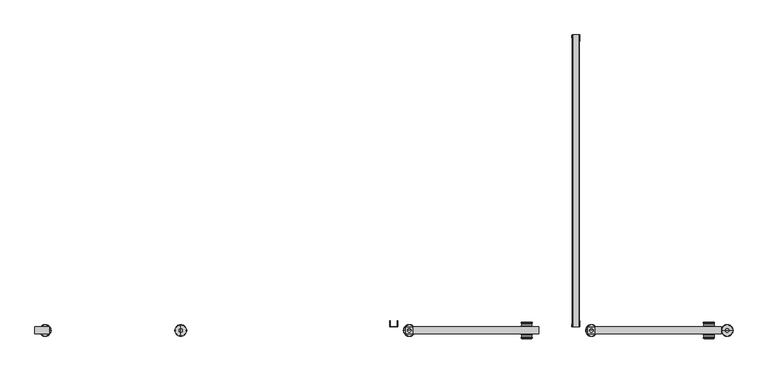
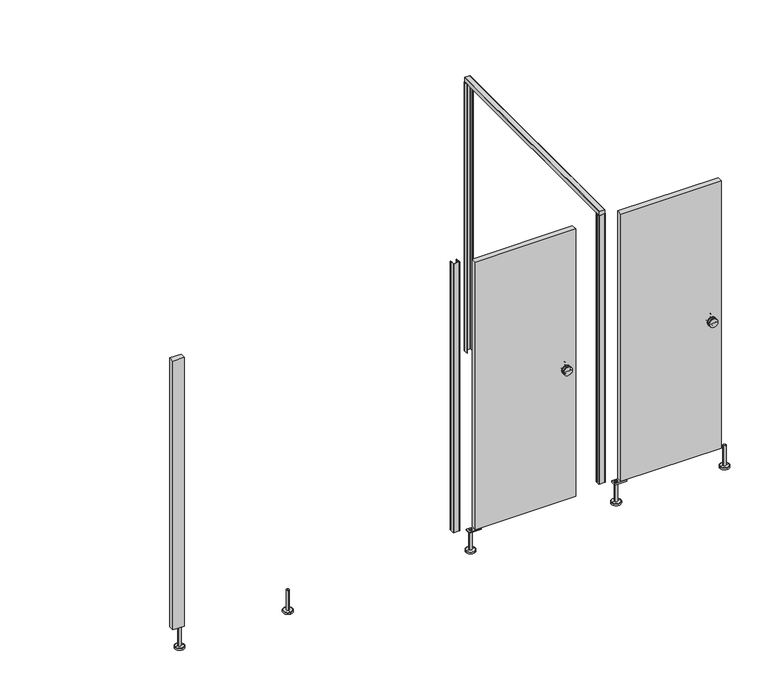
"""IFC4 building model written with IfcOpenShell, lengths in millimetres: proxy geometry, Partition_EuroStyle-Bradley_Corp-5StandardStall-NEP-LOFT : Partition_EuroStyle-Bradley_Corp-5StandardStall-NEP-LOFT."""

from ifc_helpers import new_model, si_unit, point, frame, frame_2d, origin, place, context, project, spatial, polyline, circle_curve, ellipse_curve, trimmed, segment, composite_curve, outline, extrude, source, transform, mapped, element, save
from ifc_brep_helpers import plane_surface, cylinder_surface, revolved_surface, advanced_brep


def specialty_equipment_0bc7b9af(model_context):
    return source(origin(), model_context, "Body", "SolidModel", [
        advanced_brep(
        [(-54.5018316, -1542.0101626, 150.0000008), (-72.501831, -1542.0101626, 150.0000008), (-72.501831, -1542.0101626, 12.0000001), (-54.5018316, -1542.0101626, 12.0000001), (-63.5018313, -1542.0101626, 150.0000008), (-32.5018323, -1542.0101626, 0.0), (-94.5018302, -1542.0101626, 0.0), (-63.5018313, -1542.0101626, 0.0), (-32.5018323, -1542.0101626, 10.0000001), (-94.5018302, -1542.0101626, 10.0000001), (-34.5042443, -1542.0101626, 12.0000001), (-92.4994183, -1542.0101626, 12.0000001)],
        [
            (0, 1, circle_curve(frame((-63.5018313, -1542.0101626, 150.0000008), z_axis=(0.0, 0.0, -1.0), x_axis=(-1.0, 0.0, 0.0)), 8.9999997)),
            (1, 2),
            (2, 3, circle_curve(frame((-63.5018313, -1542.0101626, 12.0000001), z_axis=(0.0, 0.0, 1.0), x_axis=(-1.0, 0.0, 0.0)), 8.9999997)),
            (3, 0),
            (1, 0, circle_curve(frame((-63.5018313, -1542.0101626, 150.0000008), z_axis=(0.0, 0.0, -1.0), x_axis=(-1.0, 0.0, 0.0)), 8.9999997)),
            (3, 2, circle_curve(frame((-63.5018313, -1542.0101626, 12.0000001), z_axis=(0.0, 0.0, 1.0), x_axis=(-1.0, 0.0, 0.0)), 8.9999997)),
            (4, 1),
            (0, 4),
            (5, 6, circle_curve(frame((-63.5018313, -1542.0101626, 0.0), z_axis=(0.0, 0.0, -1.0), x_axis=(-1.0, 0.0, 0.0)), 30.9999989)),
            (6, 7),
            (7, 5),
            (6, 5, circle_curve(frame((-63.5018313, -1542.0101626, 0.0), z_axis=(0.0, 0.0, -1.0), x_axis=(-1.0, 0.0, 0.0)), 30.9999989)),
            (8, 9, circle_curve(frame((-63.5018313, -1542.0101626, 10.0000001), z_axis=(0.0, 0.0, -1.0), x_axis=(-1.0, 0.0, 0.0)), 30.9999989)),
            (9, 6),
            (5, 8),
            (9, 8, circle_curve(frame((-63.5018313, -1542.0101626, 10.0000001), z_axis=(0.0, 0.0, -1.0), x_axis=(-1.0, 0.0, 0.0)), 30.9999989)),
            (10, 11, circle_curve(frame((-63.5018313, -1542.0101626, 12.0000001), z_axis=(0.0, 0.0, -1.0), x_axis=(-1.0, 0.0, 0.0)), 28.997587)),
            (11, 9),
            (8, 10),
            (11, 10, circle_curve(frame((-63.5018313, -1542.0101626, 12.0000001), z_axis=(0.0, 0.0, -1.0), x_axis=(-1.0, 0.0, 0.0)), 28.997587)),
            (2, 11),
            (10, 3),
        ],
        [
            cylinder_surface(frame((-63.5018313, -1542.0101626, 0.0), z_axis=(0.0, 0.0, 1.0), x_axis=(-1.0, 0.0, 0.0)), 8.9999997),
            plane_surface(frame((-63.5018313, -1542.0101626, 150.0000008), z_axis=(0.0, 0.0, 1.0), x_axis=(-1.0, 0.0, 0.0))),
            plane_surface(frame((-63.5018313, -1542.0101626, 0.0), z_axis=(0.0, 0.0, -1.0), x_axis=(-1.0, 0.0, 0.0))),
            cylinder_surface(frame((-63.5018313, -1542.0101626, 0.0), z_axis=(0.0, 0.0, 1.0), x_axis=(-1.0, 0.0, 0.0)), 30.9999989),
            revolved_surface(polyline([(-94.5018302, -1542.0101626, 10.0000001), (-92.4994183, -1542.0101626, 12.0000001)]), (-63.5018313, -1542.0101626, 0.0), (0.0, 0.0, 1.0)),
            plane_surface(frame((-63.5018313, -1542.0101626, 12.0000001), z_axis=(0.0, 0.0, 1.0), x_axis=(-1.0, 0.0, 0.0))),
        ],
        [
            (0, [[1, 2, 3, 4]]),
            (0, [[5, -4, 6, -2]]),
            (1, [[7, -1, 8]]),
            (1, [[-8, -5, -7]]),
            (2, [[9, 10, 11]]),
            (2, [[12, -11, -10]]),
            (3, [[13, 14, -9, 15]]),
            (3, [[16, -15, -12, -14]]),
            (4, [[17, 18, -13, 19]]),
            (4, [[20, -19, -16, -18]]),
            (5, [[-3, 21, -17, 22]]),
            (5, [[-6, -22, -20, -21]]),
        ],
    ),
        extrude(outline(polyline([(-117.000072, -1524.0), (-43.0032348, -1524.0), (-43.0032348, -1560.0203251), (-117.000072, -1560.0203251), (-117.000072, -1524.0)])), frame((0.0, 0.0, 150.0), z_axis=(0.0, 0.0, 1.0), x_axis=(1.0, 0.0, 0.0)), (0.0, 0.0, 1.0), 1855.0),
        advanced_brep(
        [(644.0351626, -1532.9996552, 150.0000008), (644.0351626, -1550.9996545, 150.0000008), (644.0351626, -1550.9996545, 12.0000001), (644.0351626, -1532.9996552, 12.0000001), (644.0351626, -1541.9996549, 150.0000008), (644.0351626, -1510.9996559, 0.0), (644.0351626, -1572.9996538, 0.0), (644.0351626, -1541.9996549, 0.0), (644.0351626, -1510.9996559, 10.0000001), (644.0351626, -1572.9996538, 10.0000001), (644.0351626, -1513.0020678, 12.0000001), (644.0351626, -1570.9972419, 12.0000001)],
        [
            (0, 1, circle_curve(frame((644.0351626, -1541.9996549, 150.0000008), z_axis=(0.0, 0.0, -1.0), x_axis=(0.0, -1.0, 0.0)), 8.9999997)),
            (1, 2),
            (2, 3, circle_curve(frame((644.0351626, -1541.9996549, 12.0000001), z_axis=(0.0, 0.0, 1.0), x_axis=(0.0, -1.0, 0.0)), 8.9999997)),
            (3, 0),
            (1, 0, circle_curve(frame((644.0351626, -1541.9996549, 150.0000008), z_axis=(0.0, 0.0, -1.0), x_axis=(0.0, -1.0, 0.0)), 8.9999997)),
            (3, 2, circle_curve(frame((644.0351626, -1541.9996549, 12.0000001), z_axis=(0.0, 0.0, 1.0), x_axis=(0.0, -1.0, 0.0)), 8.9999997)),
            (4, 1),
            (0, 4),
            (5, 6, circle_curve(frame((644.0351626, -1541.9996549, 0.0), z_axis=(0.0, 0.0, -1.0), x_axis=(0.0, -1.0, 0.0)), 30.9999989)),
            (6, 7),
            (7, 5),
            (6, 5, circle_curve(frame((644.0351626, -1541.9996549, 0.0), z_axis=(0.0, 0.0, -1.0), x_axis=(0.0, -1.0, 0.0)), 30.9999989)),
            (8, 9, circle_curve(frame((644.0351626, -1541.9996549, 10.0000001), z_axis=(0.0, 0.0, -1.0), x_axis=(0.0, -1.0, 0.0)), 30.9999989)),
            (9, 6),
            (5, 8),
            (9, 8, circle_curve(frame((644.0351626, -1541.9996549, 10.0000001), z_axis=(0.0, 0.0, -1.0), x_axis=(0.0, -1.0, 0.0)), 30.9999989)),
            (10, 11, circle_curve(frame((644.0351626, -1541.9996549, 12.0000001), z_axis=(0.0, 0.0, -1.0), x_axis=(0.0, -1.0, 0.0)), 28.997587)),
            (11, 9),
            (8, 10),
            (11, 10, circle_curve(frame((644.0351626, -1541.9996549, 12.0000001), z_axis=(0.0, 0.0, -1.0), x_axis=(0.0, -1.0, 0.0)), 28.997587)),
            (2, 11),
            (10, 3),
        ],
        [
            cylinder_surface(frame((644.0351626, -1541.9996549, 0.0), z_axis=(0.0, 0.0, 1.0), x_axis=(0.0, -1.0, 0.0)), 8.9999997),
            plane_surface(frame((644.0351626, -1541.9996549, 150.0000008), z_axis=(0.0, 0.0, 1.0), x_axis=(0.0, -1.0, 0.0))),
            plane_surface(frame((644.0351626, -1541.9996549, 0.0), z_axis=(0.0, 0.0, -1.0), x_axis=(0.0, -1.0, 0.0))),
            cylinder_surface(frame((644.0351626, -1541.9996549, 0.0), z_axis=(0.0, 0.0, 1.0), x_axis=(0.0, -1.0, 0.0)), 30.9999989),
            revolved_surface(polyline([(644.0351626, -1572.9996538, 10.0000001), (644.0351626, -1570.9972419, 12.0000001)]), (644.0351626, -1541.9996549, 0.0), (0.0, 0.0, 1.0)),
            plane_surface(frame((644.0351626, -1541.9996549, 12.0000001), z_axis=(0.0, 0.0, 1.0), x_axis=(0.0, -1.0, 0.0))),
        ],
        [
            (0, [[1, 2, 3, 4]]),
            (0, [[5, -4, 6, -2]]),
            (1, [[7, -1, 8]]),
            (1, [[-8, -5, -7]]),
            (2, [[9, 10, 11]]),
            (2, [[12, -11, -10]]),
            (3, [[13, 14, -9, 15]]),
            (3, [[16, -15, -12, -14]]),
            (4, [[17, 18, -13, 19]]),
            (4, [[20, -19, -16, -18]]),
            (5, [[-3, 21, -17, 22]]),
            (5, [[-6, -22, -20, -21]]),
        ],
    ),
        extrude(outline(polyline([(146.0000008, 2768.6203258), (138.0669895, 2768.6203258), (138.0669895, 2848.4675589), (146.0000008, 2848.3689968), (146.0000008, 2768.6203258)])), frame((0.0, -1559.4621549, 0.0), z_axis=(0.0, 1.0, 0.0), x_axis=(0.0, 0.0, 1.0)), (0.0, 0.0, 1.0), 34.925),
        advanced_brep(
        [(2796.2203248, -1541.9996549, 150.0000008), (2778.2203255, -1541.9996549, 150.0000008), (2778.2203255, -1541.9996549, 12.0000001), (2796.2203248, -1541.9996549, 12.0000001), (2787.2203251, -1541.9996549, 150.0000008), (2818.2203241, -1541.9996549, 0.0), (2756.2203262, -1541.9996549, 0.0), (2787.2203251, -1541.9996549, 0.0), (2818.2203241, -1541.9996549, 10.0000001), (2756.2203262, -1541.9996549, 10.0000001), (2816.2179122, -1541.9996549, 12.0000001), (2758.2227381, -1541.9996549, 12.0000001)],
        [
            (0, 1, circle_curve(frame((2787.2203251, -1541.9996549, 150.0000008), z_axis=(0.0, 0.0, -1.0), x_axis=(-1.0, 0.0, 0.0)), 8.9999997)),
            (1, 2),
            (2, 3, circle_curve(frame((2787.2203251, -1541.9996549, 12.0000001), z_axis=(0.0, 0.0, 1.0), x_axis=(-1.0, 0.0, 0.0)), 8.9999997)),
            (3, 0),
            (1, 0, circle_curve(frame((2787.2203251, -1541.9996549, 150.0000008), z_axis=(0.0, 0.0, -1.0), x_axis=(-1.0, 0.0, 0.0)), 8.9999997)),
            (3, 2, circle_curve(frame((2787.2203251, -1541.9996549, 12.0000001), z_axis=(0.0, 0.0, 1.0), x_axis=(-1.0, 0.0, 0.0)), 8.9999997)),
            (4, 1),
            (0, 4),
            (5, 6, circle_curve(frame((2787.2203251, -1541.9996549, 0.0), z_axis=(0.0, 0.0, -1.0), x_axis=(-1.0, 0.0, 0.0)), 30.9999989)),
            (6, 7),
            (7, 5),
            (6, 5, circle_curve(frame((2787.2203251, -1541.9996549, 0.0), z_axis=(0.0, 0.0, -1.0), x_axis=(-1.0, 0.0, 0.0)), 30.9999989)),
            (8, 9, circle_curve(frame((2787.2203251, -1541.9996549, 10.0000001), z_axis=(0.0, 0.0, -1.0), x_axis=(-1.0, 0.0, 0.0)), 30.9999989)),
            (9, 6),
            (5, 8),
            (9, 8, circle_curve(frame((2787.2203251, -1541.9996549, 10.0000001), z_axis=(0.0, 0.0, -1.0), x_axis=(-1.0, 0.0, 0.0)), 30.9999989)),
            (10, 11, circle_curve(frame((2787.2203251, -1541.9996549, 12.0000001), z_axis=(0.0, 0.0, -1.0), x_axis=(-1.0, 0.0, 0.0)), 28.997587)),
            (11, 9),
            (8, 10),
            (11, 10, circle_curve(frame((2787.2203251, -1541.9996549, 12.0000001), z_axis=(0.0, 0.0, -1.0), x_axis=(-1.0, 0.0, 0.0)), 28.997587)),
            (2, 11),
            (10, 3),
        ],
        [
            cylinder_surface(frame((2787.2203251, -1541.9996549, 0.0), z_axis=(0.0, 0.0, 1.0), x_axis=(-1.0, 0.0, 0.0)), 8.9999997),
            plane_surface(frame((2787.2203251, -1541.9996549, 150.0000008), z_axis=(0.0, 0.0, 1.0), x_axis=(-1.0, 0.0, 0.0))),
            plane_surface(frame((2787.2203251, -1541.9996549, 0.0), z_axis=(0.0, 0.0, -1.0), x_axis=(-1.0, 0.0, 0.0))),
            cylinder_surface(frame((2787.2203251, -1541.9996549, 0.0), z_axis=(0.0, 0.0, 1.0), x_axis=(-1.0, 0.0, 0.0)), 30.9999989),
            revolved_surface(polyline([(2756.2203262, -1541.9996549, 10.0000001), (2758.2227381, -1541.9996549, 12.0000001)]), (2787.2203251, -1541.9996549, 0.0), (0.0, 0.0, 1.0)),
            plane_surface(frame((2787.2203251, -1541.9996549, 12.0000001), z_axis=(0.0, 0.0, 1.0), x_axis=(-1.0, 0.0, 0.0))),
        ],
        [
            (0, [[1, 2, 3, 4]]),
            (0, [[5, -4, 6, -2]]),
            (1, [[7, -1, 8]]),
            (1, [[-8, -5, -7]]),
            (2, [[9, 10, 11]]),
            (2, [[12, -11, -10]]),
            (3, [[13, 14, -9, 15]]),
            (3, [[16, -15, -12, -14]]),
            (4, [[17, 18, -13, 19]]),
            (4, [[20, -19, -16, -18]]),
            (5, [[-3, 21, -17, 22]]),
            (5, [[-6, -22, -20, -21]]),
        ],
    ),
        extrude(outline(polyline([(146.0000008, 1818.2203258), (138.0669895, 1818.2203258), (138.0669895, 1898.0675589), (146.0000008, 1897.9689968), (146.0000008, 1818.2203258)])), frame((0.0, -1559.4621549, 0.0), z_axis=(0.0, 1.0, 0.0), x_axis=(0.0, 0.0, 1.0)), (0.0, 0.0, 1.0), 34.925),
        advanced_brep(
        [(1845.8203248, -1541.9996549, 150.0000008), (1827.8203255, -1541.9996549, 150.0000008), (1827.8203255, -1541.9996549, 12.0000001), (1845.8203248, -1541.9996549, 12.0000001), (1836.8203251, -1541.9996549, 150.0000008), (1867.8203241, -1541.9996549, 0.0), (1805.8203262, -1541.9996549, 0.0), (1836.8203251, -1541.9996549, 0.0), (1867.8203241, -1541.9996549, 10.0000001), (1805.8203262, -1541.9996549, 10.0000001), (1865.8179122, -1541.9996549, 12.0000001), (1807.8227381, -1541.9996549, 12.0000001)],
        [
            (0, 1, circle_curve(frame((1836.8203251, -1541.9996549, 150.0000008), z_axis=(0.0, 0.0, -1.0), x_axis=(-1.0, 0.0, 0.0)), 8.9999997)),
            (1, 2),
            (2, 3, circle_curve(frame((1836.8203251, -1541.9996549, 12.0000001), z_axis=(0.0, 0.0, 1.0), x_axis=(-1.0, 0.0, 0.0)), 8.9999997)),
            (3, 0),
            (1, 0, circle_curve(frame((1836.8203251, -1541.9996549, 150.0000008), z_axis=(0.0, 0.0, -1.0), x_axis=(-1.0, 0.0, 0.0)), 8.9999997)),
            (3, 2, circle_curve(frame((1836.8203251, -1541.9996549, 12.0000001), z_axis=(0.0, 0.0, 1.0), x_axis=(-1.0, 0.0, 0.0)), 8.9999997)),
            (4, 1),
            (0, 4),
            (5, 6, circle_curve(frame((1836.8203251, -1541.9996549, 0.0), z_axis=(0.0, 0.0, -1.0), x_axis=(-1.0, 0.0, 0.0)), 30.9999989)),
            (6, 7),
            (7, 5),
            (6, 5, circle_curve(frame((1836.8203251, -1541.9996549, 0.0), z_axis=(0.0, 0.0, -1.0), x_axis=(-1.0, 0.0, 0.0)), 30.9999989)),
            (8, 9, circle_curve(frame((1836.8203251, -1541.9996549, 10.0000001), z_axis=(0.0, 0.0, -1.0), x_axis=(-1.0, 0.0, 0.0)), 30.9999989)),
            (9, 6),
            (5, 8),
            (9, 8, circle_curve(frame((1836.8203251, -1541.9996549, 10.0000001), z_axis=(0.0, 0.0, -1.0), x_axis=(-1.0, 0.0, 0.0)), 30.9999989)),
            (10, 11, circle_curve(frame((1836.8203251, -1541.9996549, 12.0000001), z_axis=(0.0, 0.0, -1.0), x_axis=(-1.0, 0.0, 0.0)), 28.997587)),
            (11, 9),
            (8, 10),
            (11, 10, circle_curve(frame((1836.8203251, -1541.9996549, 12.0000001), z_axis=(0.0, 0.0, -1.0), x_axis=(-1.0, 0.0, 0.0)), 28.997587)),
            (2, 11),
            (10, 3),
        ],
        [
            cylinder_surface(frame((1836.8203251, -1541.9996549, 0.0), z_axis=(0.0, 0.0, 1.0), x_axis=(-1.0, 0.0, 0.0)), 8.9999997),
            plane_surface(frame((1836.8203251, -1541.9996549, 150.0000008), z_axis=(0.0, 0.0, 1.0), x_axis=(-1.0, 0.0, 0.0))),
            plane_surface(frame((1836.8203251, -1541.9996549, 0.0), z_axis=(0.0, 0.0, -1.0), x_axis=(-1.0, 0.0, 0.0))),
            cylinder_surface(frame((1836.8203251, -1541.9996549, 0.0), z_axis=(0.0, 0.0, 1.0), x_axis=(-1.0, 0.0, 0.0)), 30.9999989),
            revolved_surface(polyline([(1805.8203262, -1541.9996549, 10.0000001), (1807.8227381, -1541.9996549, 12.0000001)]), (1836.8203251, -1541.9996549, 0.0), (0.0, 0.0, 1.0)),
            plane_surface(frame((1836.8203251, -1541.9996549, 12.0000001), z_axis=(0.0, 0.0, 1.0), x_axis=(-1.0, 0.0, 0.0))),
        ],
        [
            (0, [[1, 2, 3, 4]]),
            (0, [[5, -4, 6, -2]]),
            (1, [[7, -1, 8]]),
            (1, [[-8, -5, -7]]),
            (2, [[9, 10, 11]]),
            (2, [[12, -11, -10]]),
            (3, [[13, 14, -9, 15]]),
            (3, [[16, -15, -12, -14]]),
            (4, [[17, 18, -13, 19]]),
            (4, [[20, -19, -16, -18]]),
            (5, [[-3, 21, -17, 22]]),
            (5, [[-6, -22, -20, -21]]),
        ],
    ),
        advanced_brep(
        [(3371.2451766, -1524.0098174, 1050.0), (3428.3951766, -1524.0098174, 1050.0), (3399.8201766, -1524.0098174, 1050.0), (3371.2451766, -1519.2473174, 1050.0), (3428.3951766, -1519.2473174, 1050.0), (3371.2451766, -1500.1973174, 1050.0), (3428.3951766, -1500.1973174, 1050.0), (3428.3951766, -1504.9598174, 1050.0), (3371.2451766, -1504.9598174, 1050.0), (3426.8076766, -1506.5473174, 1050.0), (3372.8326766, -1506.5473174, 1050.0), (3426.8076766, -1517.6598174, 1050.0), (3372.8326766, -1517.6598174, 1050.0), (3399.8201766, -1498.6098174, 1050.0)],
        [
            (0, 1, circle_curve(frame((3399.8201766, -1524.0098174, 1050.0), z_axis=(0.0, -1.0, 0.0), x_axis=(1.0000000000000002, 0.0, 0.0)), 28.575)),
            (1, 2),
            (2, 0),
            (1, 0, circle_curve(frame((3399.8201766, -1524.0098174, 1050.0), z_axis=(0.0, -1.0, 0.0), x_axis=(1.0000000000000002, 0.0, 0.0)), 28.575)),
            (3, 4, circle_curve(frame((3399.8201766, -1519.2473174, 1050.0), z_axis=(0.0, -1.0, 0.0), x_axis=(1.0000000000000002, 0.0, 0.0)), 28.575)),
            (4, 1),
            (0, 3),
            (4, 3, circle_curve(frame((3399.8201766, -1519.2473174, 1050.0), z_axis=(0.0, -1.0, 0.0), x_axis=(1.0000000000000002, 0.0, 0.0)), 28.575)),
            (5, 6, circle_curve(frame((3399.8201766, -1500.1973174, 1050.0), z_axis=(0.0, -1.0, 0.0), x_axis=(1.0000000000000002, 0.0, 0.0)), 28.575)),
            (6, 7),
            (7, 8, circle_curve(frame((3399.8201766, -1504.9598174, 1050.0), z_axis=(0.0, 1.0, 0.0), x_axis=(1.0000000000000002, 0.0, 0.0)), 28.575)),
            (8, 5),
            (6, 5, circle_curve(frame((3399.8201766, -1500.1973174, 1050.0), z_axis=(0.0, -1.0, 0.0), x_axis=(1.0000000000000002, 0.0, 0.0)), 28.575)),
            (8, 7, circle_curve(frame((3399.8201766, -1504.9598174, 1050.0), z_axis=(0.0, 1.0, 0.0), x_axis=(1.0000000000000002, 0.0, 0.0)), 28.575)),
            (7, 9, circle_curve(frame((3428.3951766, -1506.5473174, 1050.0), z_axis=(0.0, 0.0, 1.0), x_axis=(1.0000000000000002, 0.0, 0.0)), 1.5875)),
            (9, 10, circle_curve(frame((3399.8201766, -1506.5473174, 1050.0), z_axis=(0.0, 1.0, 0.0), x_axis=(1.0000000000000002, 0.0, 0.0)), 26.9875)),
            (10, 8, circle_curve(frame((3371.2451766, -1506.5473174, 1050.0), z_axis=(0.0, 0.0, 1.0), x_axis=(-1.0000000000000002, 0.0, 0.0)), 1.5875)),
            (10, 9, circle_curve(frame((3399.8201766, -1506.5473174, 1050.0), z_axis=(0.0, 1.0, 0.0), x_axis=(1.0000000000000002, 0.0, 0.0)), 26.9875)),
            (9, 11),
            (11, 12, circle_curve(frame((3399.8201766, -1517.6598174, 1050.0), z_axis=(0.0, 1.0, 0.0), x_axis=(1.0000000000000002, 0.0, 0.0)), 26.9875)),
            (12, 10),
            (12, 11, circle_curve(frame((3399.8201766, -1517.6598174, 1050.0), z_axis=(0.0, 1.0, 0.0), x_axis=(1.0000000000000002, 0.0, 0.0)), 26.9875)),
            (11, 4, circle_curve(frame((3428.3951766, -1517.6598174, 1050.0), z_axis=(0.0, 0.0, 1.0), x_axis=(1.0000000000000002, 0.0, 0.0)), 1.5875)),
            (3, 12, circle_curve(frame((3371.2451766, -1517.6598174, 1050.0), z_axis=(0.0, 0.0, 1.0), x_axis=(-1.0000000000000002, 0.0, 0.0)), 1.5875)),
            (13, 6, circle_curve(frame((3403.5143, -1690.0843466, 1050.0), z_axis=(0.0, 0.0, -1.0), x_axis=(1.0000000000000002, 0.0, 0.0)), 191.5101613)),
            (5, 13, circle_curve(frame((3396.1260533, -1690.0843466, 1050.0), z_axis=(0.0, 0.0, -1.0), x_axis=(-1.0000000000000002, 0.0, 0.0)), 191.5101613)),
        ],
        [
            plane_surface(frame((3399.8201766, -1524.0098174, 1050.0), z_axis=(0.0, -1.0, 0.0), x_axis=(1.0, 0.0, 0.0))),
            cylinder_surface(frame((3399.8201766, -1524.0098174, 1050.0), z_axis=(0.0, 1.0000000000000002, 0.0), x_axis=(1.0000000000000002, 0.0, 0.0)), 28.575),
            revolved_surface(trimmed(ellipse_curve(frame((3428.3951766, -1506.5473174, 1050.0), z_axis=(0.0, 0.0, -1.0), x_axis=(1.0000000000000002, 0.0, 0.0)), 1.5875, 1.5875), [point((3426.8076766, -1506.5473174, 1050.0))], [point((3428.3951766, -1504.9598174, 1050.0))], True, "CARTESIAN"), (3399.8201766, -1524.0098174, 1050.0), (0.0, 1.0000000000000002, 0.0)),
            cylinder_surface(frame((3399.8201766, -1524.0098174, 1050.0), z_axis=(0.0, 1.0000000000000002, 0.0), x_axis=(1.0000000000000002, 0.0, 0.0)), 26.9875),
            revolved_surface(trimmed(ellipse_curve(frame((3428.3951766, -1517.6598174, 1050.0), z_axis=(0.0, 0.0, -1.0), x_axis=(1.0000000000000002, 0.0, 0.0)), 1.5875, 1.5875), [point((3428.3951766, -1519.2473174, 1050.0))], [point((3426.8076766, -1517.6598174, 1050.0))], True, "CARTESIAN"), (3399.8201766, -1524.0098174, 1050.0), (0.0, 1.0000000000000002, 0.0)),
            revolved_surface(trimmed(ellipse_curve(frame((3403.5143, -1690.0843466, 1050.0), z_axis=(0.0, 0.0, 1.0), x_axis=(1.0000000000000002, 0.0, 0.0)), 191.5101613, 191.5101613), [point((3428.3951766, -1500.1973174, 1050.0))], [point((3399.8201766, -1498.6098174, 1050.0))], True, "CARTESIAN"), (3399.8201766, -1524.0098174, 1050.0), (0.0, 1.0000000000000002, 0.0)),
        ],
        [
            (0, [[1, 2, 3]]),
            (0, [[4, -3, -2]]),
            (1, [[5, 6, -1, 7]]),
            (1, [[8, -7, -4, -6]]),
            (1, [[9, 10, 11, 12]]),
            (1, [[13, -12, 14, -10]]),
            (2, [[-11, 15, 16, 17]]),
            (2, [[-14, -17, 18, -15]]),
            (3, [[-16, 19, 20, 21]]),
            (3, [[-18, -21, 22, -19]]),
            (4, [[-20, 23, -5, 24]]),
            (4, [[-22, -24, -8, -23]]),
            (5, [[25, -9, 26]]),
            (5, [[-26, -13, -25]]),
        ],
    ),
        advanced_brep(
        [(3399.8201766, -1560.0098174, 1050.0), (3428.3951766, -1560.0098174, 1050.0), (3371.2451766, -1560.0098174, 1050.0), (3428.3951766, -1564.7723174, 1050.0), (3371.2451766, -1564.7723174, 1050.0), (3371.2451766, -1579.0598174, 1050.0), (3428.3951766, -1579.0598174, 1050.0), (3428.3951766, -1583.8223174, 1050.0), (3371.2451766, -1583.8223174, 1050.0), (3372.8326766, -1577.4723174, 1050.0), (3426.8076766, -1577.4723174, 1050.0), (3372.8326766, -1566.3598174, 1050.0), (3426.8076766, -1566.3598174, 1050.0), (3399.8201766, -1585.4098174, 1050.0)],
        [
            (0, 1),
            (1, 2, circle_curve(frame((3399.8201766, -1560.0098174, 1050.0), z_axis=(0.0, 1.0, 0.0), x_axis=(1.0000000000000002, 0.0, 0.0)), 28.575)),
            (2, 0),
            (2, 1, circle_curve(frame((3399.8201766, -1560.0098174, 1050.0), z_axis=(0.0, 1.0, 0.0), x_axis=(1.0000000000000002, 0.0, 0.0)), 28.575)),
            (1, 3),
            (3, 4, circle_curve(frame((3399.8201766, -1564.7723174, 1050.0), z_axis=(0.0, 1.0, 0.0), x_axis=(1.0000000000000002, 0.0, 0.0)), 28.575)),
            (4, 2),
            (4, 3, circle_curve(frame((3399.8201766, -1564.7723174, 1050.0), z_axis=(0.0, 1.0, 0.0), x_axis=(1.0000000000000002, 0.0, 0.0)), 28.575)),
            (5, 6, circle_curve(frame((3399.8201766, -1579.0598174, 1050.0), z_axis=(0.0, -1.0, 0.0), x_axis=(1.0000000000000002, 0.0, 0.0)), 28.575)),
            (6, 7),
            (7, 8, circle_curve(frame((3399.8201766, -1583.8223174, 1050.0), z_axis=(0.0, 1.0, 0.0), x_axis=(1.0000000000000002, 0.0, 0.0)), 28.575)),
            (8, 5),
            (6, 5, circle_curve(frame((3399.8201766, -1579.0598174, 1050.0), z_axis=(0.0, -1.0, 0.0), x_axis=(1.0000000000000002, 0.0, 0.0)), 28.575)),
            (8, 7, circle_curve(frame((3399.8201766, -1583.8223174, 1050.0), z_axis=(0.0, 1.0, 0.0), x_axis=(1.0000000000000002, 0.0, 0.0)), 28.575)),
            (9, 10, circle_curve(frame((3399.8201766, -1577.4723174, 1050.0), z_axis=(0.0, -1.0, 0.0), x_axis=(1.0000000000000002, 0.0, 0.0)), 26.9875)),
            (10, 6, circle_curve(frame((3428.3951766, -1577.4723174, 1050.0), z_axis=(0.0, 0.0, 1.0), x_axis=(1.0000000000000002, 0.0, 0.0)), 1.5875)),
            (5, 9, circle_curve(frame((3371.2451766, -1577.4723174, 1050.0), z_axis=(0.0, 0.0, 1.0), x_axis=(-1.0000000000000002, 0.0, 0.0)), 1.5875)),
            (10, 9, circle_curve(frame((3399.8201766, -1577.4723174, 1050.0), z_axis=(0.0, -1.0, 0.0), x_axis=(1.0000000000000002, 0.0, 0.0)), 26.9875)),
            (11, 12, circle_curve(frame((3399.8201766, -1566.3598174, 1050.0), z_axis=(0.0, -1.0, 0.0), x_axis=(1.0000000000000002, 0.0, 0.0)), 26.9875)),
            (12, 10),
            (9, 11),
            (12, 11, circle_curve(frame((3399.8201766, -1566.3598174, 1050.0), z_axis=(0.0, -1.0, 0.0), x_axis=(1.0000000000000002, 0.0, 0.0)), 26.9875)),
            (3, 12, circle_curve(frame((3428.3951766, -1566.3598174, 1050.0), z_axis=(0.0, 0.0, 1.0), x_axis=(1.0000000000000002, 0.0, 0.0)), 1.5875)),
            (11, 4, circle_curve(frame((3371.2451766, -1566.3598174, 1050.0), z_axis=(0.0, 0.0, 1.0), x_axis=(-1.0000000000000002, 0.0, 0.0)), 1.5875)),
            (7, 13, circle_curve(frame((3403.5143, -1393.9352882, 1050.0), z_axis=(0.0, 0.0, -1.0), x_axis=(1.0000000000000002, 0.0, 0.0)), 191.5101613)),
            (13, 8, circle_curve(frame((3396.1260533, -1393.9352882, 1050.0), z_axis=(0.0, 0.0, -1.0), x_axis=(-1.0000000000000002, 0.0, 0.0)), 191.5101613)),
        ],
        [
            plane_surface(frame((3399.8201766, -1560.0098174, 1050.0), z_axis=(0.0, 1.0, 0.0), x_axis=(1.0, 0.0, 0.0))),
            cylinder_surface(frame((3399.8201766, -1560.0098174, 1050.0), z_axis=(0.0, 1.0000000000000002, 0.0), x_axis=(1.0000000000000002, 0.0, 0.0)), 28.575),
            revolved_surface(trimmed(ellipse_curve(frame((3428.3951766, -1577.4723174, 1050.0), z_axis=(0.0, 0.0, -1.0), x_axis=(1.0000000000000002, 0.0, 0.0)), 1.5875, 1.5875), [point((3428.3951766, -1579.0598174, 1050.0))], [point((3426.8076766, -1577.4723174, 1050.0))], True, "CARTESIAN"), (3399.8201766, -1560.0098174, 1050.0), (0.0, 1.0000000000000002, 0.0)),
            cylinder_surface(frame((3399.8201766, -1560.0098174, 1050.0), z_axis=(0.0, 1.0000000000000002, 0.0), x_axis=(1.0000000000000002, 0.0, 0.0)), 26.9875),
            revolved_surface(trimmed(ellipse_curve(frame((3428.3951766, -1566.3598174, 1050.0), z_axis=(0.0, 0.0, -1.0), x_axis=(1.0000000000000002, 0.0, 0.0)), 1.5875, 1.5875), [point((3426.8076766, -1566.3598174, 1050.0))], [point((3428.3951766, -1564.7723174, 1050.0))], True, "CARTESIAN"), (3399.8201766, -1560.0098174, 1050.0), (0.0, 1.0000000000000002, 0.0)),
            revolved_surface(trimmed(ellipse_curve(frame((3403.5143, -1393.9352882, 1050.0), z_axis=(0.0, 0.0, 1.0), x_axis=(1.0000000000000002, 0.0, 0.0)), 191.5101613, 191.5101613), [point((3399.8201766, -1585.4098174, 1050.0))], [point((3428.3951766, -1583.8223174, 1050.0))], True, "CARTESIAN"), (3399.8201766, -1560.0098174, 1050.0), (0.0, 1.0000000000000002, 0.0)),
        ],
        [
            (0, [[1, 2, 3]]),
            (0, [[-3, 4, -1]]),
            (1, [[-2, 5, 6, 7]]),
            (1, [[-4, -7, 8, -5]]),
            (1, [[9, 10, 11, 12]]),
            (1, [[13, -12, 14, -10]]),
            (2, [[15, 16, -9, 17]]),
            (2, [[18, -17, -13, -16]]),
            (3, [[19, 20, -15, 21]]),
            (3, [[22, -21, -18, -20]]),
            (4, [[-6, 23, -19, 24]]),
            (4, [[-8, -24, -22, -23]]),
            (5, [[-11, 25, 26]]),
            (5, [[-14, -26, -25]]),
        ],
    ),
        extrude(outline(polyline([(2808.2170903, -1523.9894923), (3463.3201766, -1523.9894923), (3463.3201766, -1560.0098174), (2808.2170903, -1560.0098174), (2808.2170903, -1523.9894923)])), frame((0.0, 0.0, 150.1179687), z_axis=(0.0, 0.0, 1.0), x_axis=(1.0, 0.0, 0.0)), (0.0, 0.0, 1.0), 1845.8820313),
        extrude(outline(composite_curve([segment(polyline([(2685.7288796, -1491.4999998), (2687.2274652, -1491.4999998)]), True, "CONTINUOUS"), segment(trimmed(circle_curve(frame_2d((2687.2238978, -1492.4990918)), 0.9990984), [point((2687.2274652, -1491.4999998))], [point((2687.6975504, -1493.3787798))], False, "CARTESIAN"), True, "CONTINUOUS"), segment(polyline([(2687.6975504, -1493.3787798), (2687.5764404, -1500.6424298)]), True, "CONTINUOUS"), segment(trimmed(circle_curve(frame_2d((2687.0588945, -1501.4999449)), 1.0015917), [point((2687.5764404, -1500.6424298))], [point((2687.5475604, -1502.3742398))], False, "CARTESIAN"), True, "CONTINUOUS"), segment(polyline([(2687.5475604, -1502.3742398), (2687.2535049, -1520.0104531)]), True, "CONTINUOUS"), segment(trimmed(circle_curve(frame_2d((2689.2536968, -1519.9997796)), 2.0002204), [point((2687.2535049, -1520.0104531))], [point((2689.2536968, -1522.0))], True, "CARTESIAN"), True, "CONTINUOUS"), segment(polyline([(2689.2536968, -1522.0), (2723.1379958, -1522.0)]), True, "CONTINUOUS"), segment(trimmed(circle_curve(frame_2d((2723.1870154, -1520.0009061)), 1.9996948), [point((2723.1379958, -1522.0))], [point((2725.18671, -1520.0))], True, "CARTESIAN"), True, "CONTINUOUS"), segment(polyline([(2725.18671, -1520.0), (2724.8926587, -1502.3739987)]), True, "CONTINUOUS"), segment(trimmed(circle_curve(frame_2d((2725.3817558, -1501.4999449)), 1.0015917), [point((2724.8926587, -1502.3739987))], [point((2724.8642099, -1500.6424298))], False, "CARTESIAN"), True, "CONTINUOUS"), segment(polyline([(2724.8642099, -1500.6424298), (2724.7430999, -1493.3787798)]), True, "CONTINUOUS"), segment(trimmed(circle_curve(frame_2d((2725.2167525, -1492.4990918)), 0.9990984), [point((2724.7430999, -1493.3787798))], [point((2725.2131851, -1491.4999998))], False, "CARTESIAN"), True, "CONTINUOUS"), segment(polyline([(2725.2131851, -1491.4999998), (2726.7117707, -1491.4999998), (2727.2201098, -1521.97082)]), True, "CONTINUOUS"), segment(trimmed(circle_curve(frame_2d((2725.1909298, -1521.97082)), 2.02918), [point((2727.2201098, -1521.97082))], [point((2725.1909298, -1524.0))], False, "CARTESIAN"), True, "CONTINUOUS"), segment(polyline([(2725.1909298, -1524.0), (2687.2497205, -1524.0)]), True, "CONTINUOUS"), segment(trimmed(circle_curve(frame_2d((2687.2497205, -1521.97082)), 2.02918), [point((2687.2497205, -1524.0))], [point((2685.2205405, -1521.97082))], False, "CARTESIAN"), True, "CONTINUOUS"), segment(polyline([(2685.2205405, -1521.97082), (2685.7288796, -1491.4999998)]), True, "CONTINUOUS")], self_intersect=False)), frame((0.0, 0.0, 150.0), z_axis=(0.0, 0.0, 1.0), x_axis=(1.0, 0.0, 0.0)), (0.0, 0.0, 1.0), 1855.0),
        advanced_brep(
        [(3486.2453255, -1541.9996549, 150.0000008), (3504.2453248, -1541.9996549, 150.0000008), (3504.2453248, -1541.9996549, 12.0000001), (3486.2453255, -1541.9996549, 12.0000001), (3495.2453251, -1541.9996549, 150.0000008), (3464.2453262, -1541.9996549, 0.0), (3526.2453241, -1541.9996549, 0.0), (3495.2453251, -1541.9996549, 0.0), (3464.2453262, -1541.9996549, 10.0000001), (3526.2453241, -1541.9996549, 10.0000001), (3466.2477381, -1541.9996549, 12.0000001), (3524.2429122, -1541.9996549, 12.0000001)],
        [
            (0, 1, circle_curve(frame((3495.2453251, -1541.9996549, 150.0000008), z_axis=(0.0, 0.0, -1.0), x_axis=(1.0, 0.0, 0.0)), 8.9999997)),
            (1, 2),
            (2, 3, circle_curve(frame((3495.2453251, -1541.9996549, 12.0000001), z_axis=(0.0, 0.0, 1.0), x_axis=(1.0, 0.0, 0.0)), 8.9999997)),
            (3, 0),
            (1, 0, circle_curve(frame((3495.2453251, -1541.9996549, 150.0000008), z_axis=(0.0, 0.0, -1.0), x_axis=(1.0, 0.0, 0.0)), 8.9999997)),
            (3, 2, circle_curve(frame((3495.2453251, -1541.9996549, 12.0000001), z_axis=(0.0, 0.0, 1.0), x_axis=(1.0, 0.0, 0.0)), 8.9999997)),
            (4, 1),
            (0, 4),
            (5, 6, circle_curve(frame((3495.2453251, -1541.9996549, 0.0), z_axis=(0.0, 0.0, -1.0), x_axis=(1.0, 0.0, 0.0)), 30.9999989)),
            (6, 7),
            (7, 5),
            (6, 5, circle_curve(frame((3495.2453251, -1541.9996549, 0.0), z_axis=(0.0, 0.0, -1.0), x_axis=(1.0, 0.0, 0.0)), 30.9999989)),
            (8, 9, circle_curve(frame((3495.2453251, -1541.9996549, 10.0000001), z_axis=(0.0, 0.0, -1.0), x_axis=(1.0, 0.0, 0.0)), 30.9999989)),
            (9, 6),
            (5, 8),
            (9, 8, circle_curve(frame((3495.2453251, -1541.9996549, 10.0000001), z_axis=(0.0, 0.0, -1.0), x_axis=(1.0, 0.0, 0.0)), 30.9999989)),
            (10, 11, circle_curve(frame((3495.2453251, -1541.9996549, 12.0000001), z_axis=(0.0, 0.0, -1.0), x_axis=(1.0, 0.0, 0.0)), 28.997587)),
            (11, 9),
            (8, 10),
            (11, 10, circle_curve(frame((3495.2453251, -1541.9996549, 12.0000001), z_axis=(0.0, 0.0, -1.0), x_axis=(1.0, 0.0, 0.0)), 28.997587)),
            (2, 11),
            (10, 3),
        ],
        [
            cylinder_surface(frame((3495.2453251, -1541.9996549, 0.0), z_axis=(0.0, 0.0, 1.0), x_axis=(1.0, 0.0, 0.0)), 8.9999997),
            plane_surface(frame((3495.2453251, -1541.9996549, 150.0000008), z_axis=(0.0, 0.0, 1.0), x_axis=(1.0, 0.0, 0.0))),
            plane_surface(frame((3495.2453251, -1541.9996549, 0.0), z_axis=(0.0, 0.0, -1.0), x_axis=(1.0, 0.0, 0.0))),
            cylinder_surface(frame((3495.2453251, -1541.9996549, 0.0), z_axis=(0.0, 0.0, 1.0), x_axis=(1.0, 0.0, 0.0)), 30.9999989),
            revolved_surface(polyline([(3526.2453241, -1541.9996549, 10.0000001), (3524.2429122, -1541.9996549, 12.0000001)]), (3495.2453251, -1541.9996549, 0.0), (0.0, 0.0, 1.0)),
            plane_surface(frame((3495.2453251, -1541.9996549, 12.0000001), z_axis=(0.0, 0.0, 1.0), x_axis=(1.0, 0.0, 0.0))),
        ],
        [
            (0, [[1, 2, 3, 4]]),
            (0, [[5, -4, 6, -2]]),
            (1, [[7, -1, 8]]),
            (1, [[-8, -5, -7]]),
            (2, [[9, 10, 11]]),
            (2, [[12, -11, -10]]),
            (3, [[13, 14, -9, 15]]),
            (3, [[16, -15, -12, -14]]),
            (4, [[17, 18, -13, 19]]),
            (4, [[20, -19, -16, -18]]),
            (5, [[-3, 21, -17, 22]]),
            (5, [[-6, -22, -20, -21]]),
        ],
    ),
        extrude(outline(composite_curve([segment(polyline([(1735.3288796, -1491.4999998), (1736.8274652, -1491.4999998)]), True, "CONTINUOUS"), segment(trimmed(circle_curve(frame_2d((1736.8238978, -1492.4990918)), 0.9990984), [point((1736.8274652, -1491.4999998))], [point((1737.2975504, -1493.3787798))], False, "CARTESIAN"), True, "CONTINUOUS"), segment(polyline([(1737.2975504, -1493.3787798), (1737.1764404, -1500.6424298)]), True, "CONTINUOUS"), segment(trimmed(circle_curve(frame_2d((1736.6588945, -1501.4999449)), 1.0015917), [point((1737.1764404, -1500.6424298))], [point((1737.1475604, -1502.3742398))], False, "CARTESIAN"), True, "CONTINUOUS"), segment(polyline([(1737.1475604, -1502.3742398), (1736.8535049, -1520.0104531)]), True, "CONTINUOUS"), segment(trimmed(circle_curve(frame_2d((1738.8536968, -1519.9997796)), 2.0002204), [point((1736.8535049, -1520.0104531))], [point((1738.8536968, -1522.0))], True, "CARTESIAN"), True, "CONTINUOUS"), segment(polyline([(1738.8536968, -1522.0), (1772.7379958, -1522.0)]), True, "CONTINUOUS"), segment(trimmed(circle_curve(frame_2d((1772.7870154, -1520.0009061)), 1.9996948), [point((1772.7379958, -1522.0))], [point((1774.78671, -1520.0))], True, "CARTESIAN"), True, "CONTINUOUS"), segment(polyline([(1774.78671, -1520.0), (1774.4926587, -1502.3739987)]), True, "CONTINUOUS"), segment(trimmed(circle_curve(frame_2d((1774.9817558, -1501.4999449)), 1.0015917), [point((1774.4926587, -1502.3739987))], [point((1774.4642099, -1500.6424298))], False, "CARTESIAN"), True, "CONTINUOUS"), segment(polyline([(1774.4642099, -1500.6424298), (1774.3430999, -1493.3787798)]), True, "CONTINUOUS"), segment(trimmed(circle_curve(frame_2d((1774.8167525, -1492.4990918)), 0.9990984), [point((1774.3430999, -1493.3787798))], [point((1774.8131851, -1491.4999998))], False, "CARTESIAN"), True, "CONTINUOUS"), segment(polyline([(1774.8131851, -1491.4999998), (1776.3117707, -1491.4999998), (1776.8201098, -1521.97082)]), True, "CONTINUOUS"), segment(trimmed(circle_curve(frame_2d((1774.7909298, -1521.97082)), 2.02918), [point((1776.8201098, -1521.97082))], [point((1774.7909298, -1524.0))], False, "CARTESIAN"), True, "CONTINUOUS"), segment(polyline([(1774.7909298, -1524.0), (1736.8497205, -1524.0)]), True, "CONTINUOUS"), segment(trimmed(circle_curve(frame_2d((1736.8497205, -1521.97082)), 2.02918), [point((1736.8497205, -1524.0))], [point((1734.8205405, -1521.97082))], False, "CARTESIAN"), True, "CONTINUOUS"), segment(polyline([(1734.8205405, -1521.97082), (1735.3288796, -1491.4999998)]), True, "CONTINUOUS")], self_intersect=False)), frame((0.0, 0.0, 150.0), z_axis=(0.0, 0.0, 1.0), x_axis=(1.0, 0.0, 0.0)), (0.0, 0.0, 1.0), 1855.0),
        advanced_brep(
        [(2420.8451766, -1524.0098174, 1050.0), (2477.9951766, -1524.0098174, 1050.0), (2449.4201766, -1524.0098174, 1050.0), (2420.8451766, -1519.2473174, 1050.0), (2477.9951766, -1519.2473174, 1050.0), (2420.8451766, -1500.1973174, 1050.0), (2477.9951766, -1500.1973174, 1050.0), (2477.9951766, -1504.9598174, 1050.0), (2420.8451766, -1504.9598174, 1050.0), (2476.4076766, -1506.5473174, 1050.0), (2422.4326766, -1506.5473174, 1050.0), (2476.4076766, -1517.6598174, 1050.0), (2422.4326766, -1517.6598174, 1050.0), (2449.4201766, -1498.6098174, 1050.0)],
        [
            (0, 1, circle_curve(frame((2449.4201766, -1524.0098174, 1050.0), z_axis=(0.0, -1.0, 0.0), x_axis=(1.0000000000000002, 0.0, 0.0)), 28.575)),
            (1, 2),
            (2, 0),
            (1, 0, circle_curve(frame((2449.4201766, -1524.0098174, 1050.0), z_axis=(0.0, -1.0, 0.0), x_axis=(1.0000000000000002, 0.0, 0.0)), 28.575)),
            (3, 4, circle_curve(frame((2449.4201766, -1519.2473174, 1050.0), z_axis=(0.0, -1.0, 0.0), x_axis=(1.0000000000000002, 0.0, 0.0)), 28.575)),
            (4, 1),
            (0, 3),
            (4, 3, circle_curve(frame((2449.4201766, -1519.2473174, 1050.0), z_axis=(0.0, -1.0, 0.0), x_axis=(1.0000000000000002, 0.0, 0.0)), 28.575)),
            (5, 6, circle_curve(frame((2449.4201766, -1500.1973174, 1050.0), z_axis=(0.0, -1.0, 0.0), x_axis=(1.0000000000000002, 0.0, 0.0)), 28.575)),
            (6, 7),
            (7, 8, circle_curve(frame((2449.4201766, -1504.9598174, 1050.0), z_axis=(0.0, 1.0, 0.0), x_axis=(1.0000000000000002, 0.0, 0.0)), 28.575)),
            (8, 5),
            (6, 5, circle_curve(frame((2449.4201766, -1500.1973174, 1050.0), z_axis=(0.0, -1.0, 0.0), x_axis=(1.0000000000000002, 0.0, 0.0)), 28.575)),
            (8, 7, circle_curve(frame((2449.4201766, -1504.9598174, 1050.0), z_axis=(0.0, 1.0, 0.0), x_axis=(1.0000000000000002, 0.0, 0.0)), 28.575)),
            (7, 9, circle_curve(frame((2477.9951766, -1506.5473174, 1050.0), z_axis=(0.0, 0.0, 1.0), x_axis=(1.0000000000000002, 0.0, 0.0)), 1.5875)),
            (9, 10, circle_curve(frame((2449.4201766, -1506.5473174, 1050.0), z_axis=(0.0, 1.0, 0.0), x_axis=(1.0000000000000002, 0.0, 0.0)), 26.9875)),
            (10, 8, circle_curve(frame((2420.8451766, -1506.5473174, 1050.0), z_axis=(0.0, 0.0, 1.0), x_axis=(-1.0000000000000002, 0.0, 0.0)), 1.5875)),
            (10, 9, circle_curve(frame((2449.4201766, -1506.5473174, 1050.0), z_axis=(0.0, 1.0, 0.0), x_axis=(1.0000000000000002, 0.0, 0.0)), 26.9875)),
            (9, 11),
            (11, 12, circle_curve(frame((2449.4201766, -1517.6598174, 1050.0), z_axis=(0.0, 1.0, 0.0), x_axis=(1.0000000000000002, 0.0, 0.0)), 26.9875)),
            (12, 10),
            (12, 11, circle_curve(frame((2449.4201766, -1517.6598174, 1050.0), z_axis=(0.0, 1.0, 0.0), x_axis=(1.0000000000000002, 0.0, 0.0)), 26.9875)),
            (11, 4, circle_curve(frame((2477.9951766, -1517.6598174, 1050.0), z_axis=(0.0, 0.0, 1.0), x_axis=(1.0000000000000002, 0.0, 0.0)), 1.5875)),
            (3, 12, circle_curve(frame((2420.8451766, -1517.6598174, 1050.0), z_axis=(0.0, 0.0, 1.0), x_axis=(-1.0000000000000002, 0.0, 0.0)), 1.5875)),
            (13, 6, circle_curve(frame((2453.1143, -1690.0843466, 1050.0), z_axis=(0.0, 0.0, -1.0), x_axis=(1.0000000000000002, 0.0, 0.0)), 191.5101613)),
            (5, 13, circle_curve(frame((2445.7260533, -1690.0843466, 1050.0), z_axis=(0.0, 0.0, -1.0), x_axis=(-1.0000000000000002, 0.0, 0.0)), 191.5101613)),
        ],
        [
            plane_surface(frame((2449.4201766, -1524.0098174, 1050.0), z_axis=(0.0, -1.0, 0.0), x_axis=(1.0, 0.0, 0.0))),
            cylinder_surface(frame((2449.4201766, -1524.0098174, 1050.0), z_axis=(0.0, 1.0000000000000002, 0.0), x_axis=(1.0000000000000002, 0.0, 0.0)), 28.575),
            revolved_surface(trimmed(ellipse_curve(frame((2477.9951766, -1506.5473174, 1050.0), z_axis=(0.0, 0.0, -1.0), x_axis=(1.0000000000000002, 0.0, 0.0)), 1.5875, 1.5875), [point((2476.4076766, -1506.5473174, 1050.0))], [point((2477.9951766, -1504.9598174, 1050.0))], True, "CARTESIAN"), (2449.4201766, -1524.0098174, 1050.0), (0.0, 1.0000000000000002, 0.0)),
            cylinder_surface(frame((2449.4201766, -1524.0098174, 1050.0), z_axis=(0.0, 1.0000000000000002, 0.0), x_axis=(1.0000000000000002, 0.0, 0.0)), 26.9875),
            revolved_surface(trimmed(ellipse_curve(frame((2477.9951766, -1517.6598174, 1050.0), z_axis=(0.0, 0.0, -1.0), x_axis=(1.0000000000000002, 0.0, 0.0)), 1.5875, 1.5875), [point((2477.9951766, -1519.2473174, 1050.0))], [point((2476.4076766, -1517.6598174, 1050.0))], True, "CARTESIAN"), (2449.4201766, -1524.0098174, 1050.0), (0.0, 1.0000000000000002, 0.0)),
            revolved_surface(trimmed(ellipse_curve(frame((2453.1143, -1690.0843466, 1050.0), z_axis=(0.0, 0.0, 1.0), x_axis=(1.0000000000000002, 0.0, 0.0)), 191.5101613, 191.5101613), [point((2477.9951766, -1500.1973174, 1050.0))], [point((2449.4201766, -1498.6098174, 1050.0))], True, "CARTESIAN"), (2449.4201766, -1524.0098174, 1050.0), (0.0, 1.0000000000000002, 0.0)),
        ],
        [
            (0, [[1, 2, 3]]),
            (0, [[4, -3, -2]]),
            (1, [[5, 6, -1, 7]]),
            (1, [[8, -7, -4, -6]]),
            (1, [[9, 10, 11, 12]]),
            (1, [[13, -12, 14, -10]]),
            (2, [[-11, 15, 16, 17]]),
            (2, [[-14, -17, 18, -15]]),
            (3, [[-16, 19, 20, 21]]),
            (3, [[-18, -21, 22, -19]]),
            (4, [[-20, 23, -5, 24]]),
            (4, [[-22, -24, -8, -23]]),
            (5, [[25, -9, 26]]),
            (5, [[-26, -13, -25]]),
        ],
    ),
        advanced_brep(
        [(2449.4201766, -1560.0098174, 1050.0), (2477.9951766, -1560.0098174, 1050.0), (2420.8451766, -1560.0098174, 1050.0), (2477.9951766, -1564.7723174, 1050.0), (2420.8451766, -1564.7723174, 1050.0), (2420.8451766, -1579.0598174, 1050.0), (2477.9951766, -1579.0598174, 1050.0), (2477.9951766, -1583.8223174, 1050.0), (2420.8451766, -1583.8223174, 1050.0), (2422.4326766, -1577.4723174, 1050.0), (2476.4076766, -1577.4723174, 1050.0), (2422.4326766, -1566.3598174, 1050.0), (2476.4076766, -1566.3598174, 1050.0), (2449.4201766, -1585.4098174, 1050.0)],
        [
            (0, 1),
            (1, 2, circle_curve(frame((2449.4201766, -1560.0098174, 1050.0), z_axis=(0.0, 1.0, 0.0), x_axis=(1.0000000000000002, 0.0, 0.0)), 28.575)),
            (2, 0),
            (2, 1, circle_curve(frame((2449.4201766, -1560.0098174, 1050.0), z_axis=(0.0, 1.0, 0.0), x_axis=(1.0000000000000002, 0.0, 0.0)), 28.575)),
            (1, 3),
            (3, 4, circle_curve(frame((2449.4201766, -1564.7723174, 1050.0), z_axis=(0.0, 1.0, 0.0), x_axis=(1.0000000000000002, 0.0, 0.0)), 28.575)),
            (4, 2),
            (4, 3, circle_curve(frame((2449.4201766, -1564.7723174, 1050.0), z_axis=(0.0, 1.0, 0.0), x_axis=(1.0000000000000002, 0.0, 0.0)), 28.575)),
            (5, 6, circle_curve(frame((2449.4201766, -1579.0598174, 1050.0), z_axis=(0.0, -1.0, 0.0), x_axis=(1.0000000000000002, 0.0, 0.0)), 28.575)),
            (6, 7),
            (7, 8, circle_curve(frame((2449.4201766, -1583.8223174, 1050.0), z_axis=(0.0, 1.0, 0.0), x_axis=(1.0000000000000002, 0.0, 0.0)), 28.575)),
            (8, 5),
            (6, 5, circle_curve(frame((2449.4201766, -1579.0598174, 1050.0), z_axis=(0.0, -1.0, 0.0), x_axis=(1.0000000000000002, 0.0, 0.0)), 28.575)),
            (8, 7, circle_curve(frame((2449.4201766, -1583.8223174, 1050.0), z_axis=(0.0, 1.0, 0.0), x_axis=(1.0000000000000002, 0.0, 0.0)), 28.575)),
            (9, 10, circle_curve(frame((2449.4201766, -1577.4723174, 1050.0), z_axis=(0.0, -1.0, 0.0), x_axis=(1.0000000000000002, 0.0, 0.0)), 26.9875)),
            (10, 6, circle_curve(frame((2477.9951766, -1577.4723174, 1050.0), z_axis=(0.0, 0.0, 1.0), x_axis=(1.0000000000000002, 0.0, 0.0)), 1.5875)),
            (5, 9, circle_curve(frame((2420.8451766, -1577.4723174, 1050.0), z_axis=(0.0, 0.0, 1.0), x_axis=(-1.0000000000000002, 0.0, 0.0)), 1.5875)),
            (10, 9, circle_curve(frame((2449.4201766, -1577.4723174, 1050.0), z_axis=(0.0, -1.0, 0.0), x_axis=(1.0000000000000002, 0.0, 0.0)), 26.9875)),
            (11, 12, circle_curve(frame((2449.4201766, -1566.3598174, 1050.0), z_axis=(0.0, -1.0, 0.0), x_axis=(1.0000000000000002, 0.0, 0.0)), 26.9875)),
            (12, 10),
            (9, 11),
            (12, 11, circle_curve(frame((2449.4201766, -1566.3598174, 1050.0), z_axis=(0.0, -1.0, 0.0), x_axis=(1.0000000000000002, 0.0, 0.0)), 26.9875)),
            (3, 12, circle_curve(frame((2477.9951766, -1566.3598174, 1050.0), z_axis=(0.0, 0.0, 1.0), x_axis=(1.0000000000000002, 0.0, 0.0)), 1.5875)),
            (11, 4, circle_curve(frame((2420.8451766, -1566.3598174, 1050.0), z_axis=(0.0, 0.0, 1.0), x_axis=(-1.0000000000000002, 0.0, 0.0)), 1.5875)),
            (7, 13, circle_curve(frame((2453.1143, -1393.9352882, 1050.0), z_axis=(0.0, 0.0, -1.0), x_axis=(1.0000000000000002, 0.0, 0.0)), 191.5101613)),
            (13, 8, circle_curve(frame((2445.7260533, -1393.9352882, 1050.0), z_axis=(0.0, 0.0, -1.0), x_axis=(-1.0000000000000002, 0.0, 0.0)), 191.5101613)),
        ],
        [
            plane_surface(frame((2449.4201766, -1560.0098174, 1050.0), z_axis=(0.0, 1.0, 0.0), x_axis=(1.0, 0.0, 0.0))),
            cylinder_surface(frame((2449.4201766, -1560.0098174, 1050.0), z_axis=(0.0, 1.0000000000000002, 0.0), x_axis=(1.0000000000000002, 0.0, 0.0)), 28.575),
            revolved_surface(trimmed(ellipse_curve(frame((2477.9951766, -1577.4723174, 1050.0), z_axis=(0.0, 0.0, -1.0), x_axis=(1.0000000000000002, 0.0, 0.0)), 1.5875, 1.5875), [point((2477.9951766, -1579.0598174, 1050.0))], [point((2476.4076766, -1577.4723174, 1050.0))], True, "CARTESIAN"), (2449.4201766, -1560.0098174, 1050.0), (0.0, 1.0000000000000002, 0.0)),
            cylinder_surface(frame((2449.4201766, -1560.0098174, 1050.0), z_axis=(0.0, 1.0000000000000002, 0.0), x_axis=(1.0000000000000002, 0.0, 0.0)), 26.9875),
            revolved_surface(trimmed(ellipse_curve(frame((2477.9951766, -1566.3598174, 1050.0), z_axis=(0.0, 0.0, -1.0), x_axis=(1.0000000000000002, 0.0, 0.0)), 1.5875, 1.5875), [point((2476.4076766, -1566.3598174, 1050.0))], [point((2477.9951766, -1564.7723174, 1050.0))], True, "CARTESIAN"), (2449.4201766, -1560.0098174, 1050.0), (0.0, 1.0000000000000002, 0.0)),
            revolved_surface(trimmed(ellipse_curve(frame((2453.1143, -1393.9352882, 1050.0), z_axis=(0.0, 0.0, 1.0), x_axis=(1.0000000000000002, 0.0, 0.0)), 191.5101613, 191.5101613), [point((2449.4201766, -1585.4098174, 1050.0))], [point((2477.9951766, -1583.8223174, 1050.0))], True, "CARTESIAN"), (2449.4201766, -1560.0098174, 1050.0), (0.0, 1.0000000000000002, 0.0)),
        ],
        [
            (0, [[1, 2, 3]]),
            (0, [[-3, 4, -1]]),
            (1, [[-2, 5, 6, 7]]),
            (1, [[-4, -7, 8, -5]]),
            (1, [[9, 10, 11, 12]]),
            (1, [[13, -12, 14, -10]]),
            (2, [[15, 16, -9, 17]]),
            (2, [[18, -17, -13, -16]]),
            (3, [[19, 20, -15, 21]]),
            (3, [[22, -21, -18, -20]]),
            (4, [[-6, 23, -19, 24]]),
            (4, [[-8, -24, -22, -23]]),
            (5, [[-11, 25, 26]]),
            (5, [[-14, -26, -25]]),
        ],
    ),
        extrude(outline(polyline([(1857.8170903, -1523.9894923), (2512.9201766, -1523.9894923), (2512.9201766, -1560.0098174), (1857.8170903, -1560.0098174), (1857.8170903, -1523.9894923)])), frame((0.0, 0.0, 150.1179687), z_axis=(0.0, 0.0, 1.0), x_axis=(1.0, 0.0, 0.0)), (0.0, 0.0, 1.0), 1845.8820313),
        extrude(outline(composite_curve([segment(polyline([(2685.7288796, -32.5000002), (2685.2205405, -2.02918)]), True, "CONTINUOUS"), segment(trimmed(circle_curve(frame_2d((2687.2497205, -2.02918)), 2.02918), [point((2685.2205405, -2.02918))], [point((2687.2497205, 0.0))], False, "CARTESIAN"), True, "CONTINUOUS"), segment(polyline([(2687.2497205, 0.0), (2725.1909298, 0.0)]), True, "CONTINUOUS"), segment(trimmed(circle_curve(frame_2d((2725.1909298, -2.02918)), 2.02918), [point((2725.1909298, 0.0))], [point((2727.2201098, -2.02918))], False, "CARTESIAN"), True, "CONTINUOUS"), segment(polyline([(2727.2201098, -2.02918), (2726.7117707, -32.5000002), (2725.2131851, -32.5000002)]), True, "CONTINUOUS"), segment(trimmed(circle_curve(frame_2d((2725.2167525, -31.5009082)), 0.9990984), [point((2725.2131851, -32.5000002))], [point((2724.7430999, -30.6212202))], False, "CARTESIAN"), True, "CONTINUOUS"), segment(polyline([(2724.7430999, -30.6212202), (2724.8642099, -23.3575702)]), True, "CONTINUOUS"), segment(trimmed(circle_curve(frame_2d((2725.3817558, -22.5000551)), 1.0015917), [point((2724.8642099, -23.3575702))], [point((2724.8926587, -21.6260013))], False, "CARTESIAN"), True, "CONTINUOUS"), segment(polyline([(2724.8926587, -21.6260013), (2725.18671, -4.0)]), True, "CONTINUOUS"), segment(trimmed(circle_curve(frame_2d((2723.1870154, -3.9990939)), 1.9996948), [point((2725.18671, -4.0))], [point((2723.1379958, -2.0))], True, "CARTESIAN"), True, "CONTINUOUS"), segment(polyline([(2723.1379958, -2.0), (2689.2536968, -2.0)]), True, "CONTINUOUS"), segment(trimmed(circle_curve(frame_2d((2689.2536968, -4.0002204)), 2.0002204), [point((2689.2536968, -2.0))], [point((2687.2535049, -3.9895469))], True, "CARTESIAN"), True, "CONTINUOUS"), segment(polyline([(2687.2535049, -3.9895469), (2687.5475604, -21.6257602)]), True, "CONTINUOUS"), segment(trimmed(circle_curve(frame_2d((2687.0588945, -22.5000551)), 1.0015917), [point((2687.5475604, -21.6257602))], [point((2687.5764404, -23.3575702))], False, "CARTESIAN"), True, "CONTINUOUS"), segment(polyline([(2687.5764404, -23.3575702), (2687.6975504, -30.6212202)]), True, "CONTINUOUS"), segment(trimmed(circle_curve(frame_2d((2687.2238978, -31.5009082)), 0.9990984), [point((2687.6975504, -30.6212202))], [point((2687.2274652, -32.5000002))], False, "CARTESIAN"), True, "CONTINUOUS"), segment(polyline([(2687.2274652, -32.5000002), (2685.7288796, -32.5000002)]), True, "CONTINUOUS")], self_intersect=False)), frame((0.0, 0.0, 150.0), z_axis=(0.0, 0.0, 1.0), x_axis=(1.0, 0.0, 0.0)), (0.0, 0.0, 1.0), 1855.0),
        extrude(outline(composite_curve([segment(polyline([(2032.9666591, 2688.2203701), (2005.7492965, 2688.6741806)]), True, "CONTINUOUS"), segment(trimmed(circle_curve(frame_2d((2005.762, 2689.4360747)), 0.762), [point((2005.7492965, 2688.6741806))], [point((2005.0, 2689.4360747))], False, "CARTESIAN"), True, "CONTINUOUS"), segment(polyline([(2005.0, 2689.4360747), (2005.0, 2722.9733505)]), True, "CONTINUOUS"), segment(trimmed(circle_curve(frame_2d((2005.79375, 2722.9733505)), 0.79375), [point((2005.0, 2722.9733505))], [point((2005.7805172, 2723.7669902))], False, "CARTESIAN"), True, "CONTINUOUS"), segment(polyline([(2005.7805172, 2723.7669902), (2032.9666591, 2724.2202802)]), True, "CONTINUOUS"), segment(trimmed(circle_curve(frame_2d((2033.0000015, 2722.2205597)), 1.9999985), [point((2032.9666591, 2724.2202802))], [point((2035.0, 2722.2205597))], False, "CARTESIAN"), True, "CONTINUOUS"), segment(polyline([(2035.0, 2722.2205597), (2035.0, 2690.2200907)]), True, "CONTINUOUS"), segment(trimmed(circle_curve(frame_2d((2033.0000015, 2690.2200907)), 1.9999985), [point((2035.0, 2690.2200907))], [point((2032.9666591, 2688.2203701))], False, "CARTESIAN"), True, "CONTINUOUS")], self_intersect=False)), frame((0.0, -1524.0, 0.0), z_axis=(0.0, 1.0, 0.0), x_axis=(0.0, 0.0, 1.0)), (0.0, 0.0, 1.0), 1524.0),
    ])


if __name__ == "__main__":
    model = new_model("IFC4")
    model_context = context("Model", 3, world=origin())
    ifc_project = project(units=[si_unit("LENGTHUNIT", "METRE", prefix="MILLI")], contexts=[model_context])
    site = spatial("IfcSite", under=ifc_project)
    building = spatial("IfcBuilding", under=site)
    placement = place(None, origin())
    specialty_equipment_shape = specialty_equipment_0bc7b9af(model_context)
    element("IfcBuildingElementProxy", 1, Name="Partition_EuroStyle-Bradley_Corp-5StandardStall-NEP-LOFT : Partition_EuroStyle-Bradley_Corp-5StandardStall-NEP-LOFT", ObjectType="Partition_EuroStyle-Bradley_Corp-5StandardStall-NEP-LOFT : Partition_EuroStyle-Bradley_Corp-5StandardStall-NEP-LOFT", at=placement, inside=building, context=model_context, shape_type="MappedRepresentation", body=[
        mapped(specialty_equipment_shape, transform((0.0, 0.0, 0.0), x_axis=(1.0, 0.0, 0.0), y_axis=(0.0, 1.0, 0.0), z_axis=(0.0, 0.0, 1.0))),
    ])
    save(model, "model.ifc")
